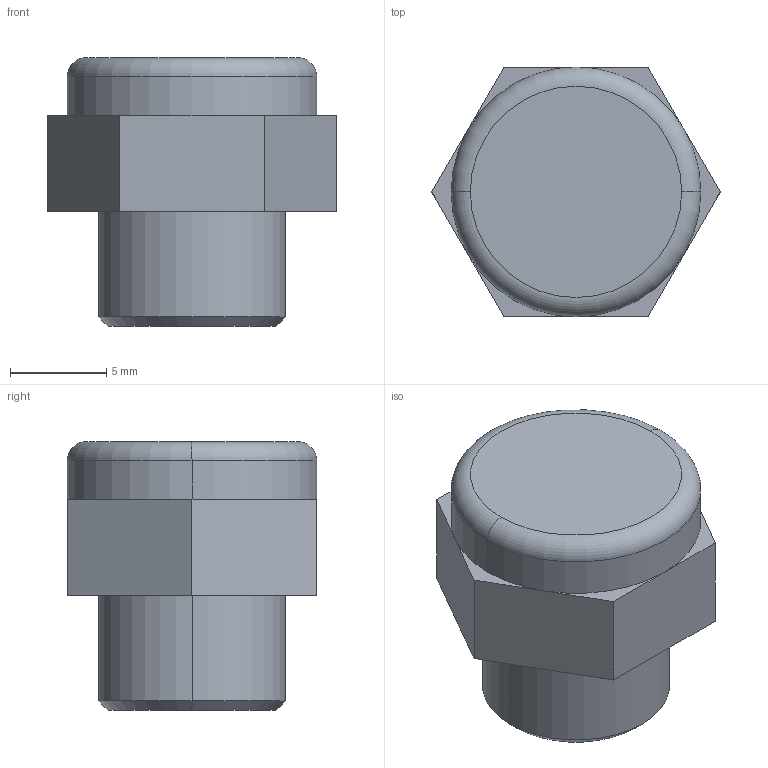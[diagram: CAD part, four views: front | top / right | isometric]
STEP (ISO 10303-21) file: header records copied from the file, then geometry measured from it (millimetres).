
FILE_DESCRIPTION (( 'STEP AP203' ), '1' );
FILE_NAME ('14010040.STEP', '2016-11-16T16:51:50', ( '' ), ( '' ), 'SwSTEP 2.0', 'SolidWorks 2015', '' );
FILE_SCHEMA (( 'CONFIG_CONTROL_DESIGN' ));
Length unit declared in the file: millimetre
Products named in the file (1): 14010040
Bounding box: 15.01 x 13 x 14 mm (x, y, z)
Volume: 1564 mm3; surface area: 796.6 mm2
Topology: 1 solids, 1 shells, 23 faces, 50 edges, 30 vertices
Faces by surface type: plane 15, cylinder 4, cone 2, torus 2
Entity records: 701 total; most frequent: DIRECTION 118, CARTESIAN_POINT 104, ORIENTED_EDGE 100, EDGE_CURVE 50, AXIS2_PLACEMENT_3D 44, VERTEX_POINT 30, VECTOR 30, LINE 30
